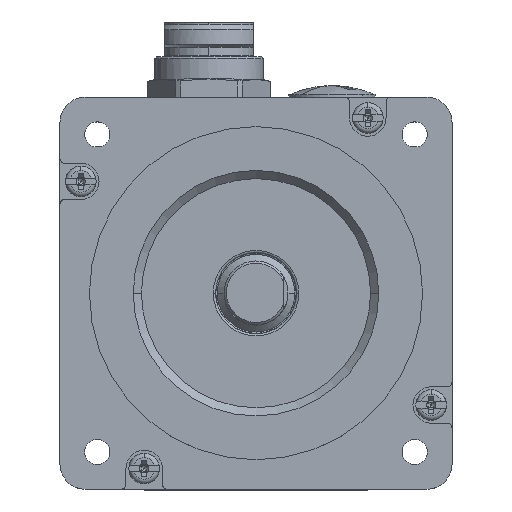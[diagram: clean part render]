
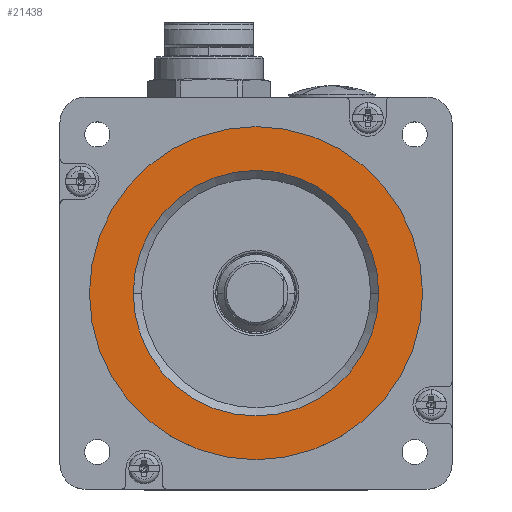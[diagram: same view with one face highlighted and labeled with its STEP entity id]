
A CAD part, top view. The second image highlights one B-rep face of the part: STEP entity #21438.
In plain terms, the highlighted planar face has unit normal (0, 0, 1).
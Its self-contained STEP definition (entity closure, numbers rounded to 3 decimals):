
#1458 = FACE_OUTER_BOUND ( 'NONE', #41997, .T. ) ;
#1884 = ORIENTED_EDGE ( 'NONE', *, *, #65854, .T. ) ;
#3645 = ORIENTED_EDGE ( 'NONE', *, *, #15280, .T. ) ;
#7233 = PLANE ( 'NONE',  #80050 ) ;
#7243 = CARTESIAN_POINT ( 'NONE',  ( 0., 0., 0. ) ) ;
#11279 = CARTESIAN_POINT ( 'NONE',  ( 26.9, 0., 0. ) ) ;
#13400 = FACE_BOUND ( 'NONE', #54401, .T. ) ;
#15280 = EDGE_CURVE ( 'NONE', #40346, #39296, #17538, .T. ) ;
#15513 = DIRECTION ( 'NONE',  ( 1., 0., 0. ) ) ;
#17538 = CIRCLE ( 'NONE', #62983, 26.9 ) ;
#21438 = ADVANCED_FACE ( 'NONE', ( #13400, #1458 ), #7233, .T. ) ;
#22477 = VERTEX_POINT ( 'NONE', #73126 ) ;
#25265 = CARTESIAN_POINT ( 'NONE',  ( -26.9, 0., 0. ) ) ;
#27712 = CIRCLE ( 'NONE', #34239, 36.5 ) ;
#31220 = CARTESIAN_POINT ( 'NONE',  ( 0., 0., 0. ) ) ;
#31630 = CARTESIAN_POINT ( 'NONE',  ( -37.45, -37.45, 0. ) ) ;
#34177 = CARTESIAN_POINT ( 'NONE',  ( 0., 0., 0. ) ) ;
#34239 = AXIS2_PLACEMENT_3D ( 'NONE', #7243, #75573, #80493 ) ;
#34720 = CIRCLE ( 'NONE', #63396, 26.9 ) ;
#37017 = VERTEX_POINT ( 'NONE', #46969 ) ;
#38056 = CARTESIAN_POINT ( 'NONE',  ( 0., 0., 0. ) ) ;
#39296 = VERTEX_POINT ( 'NONE', #25265 ) ;
#40346 = VERTEX_POINT ( 'NONE', #11279 ) ;
#41997 = EDGE_LOOP ( 'NONE', ( #1884, #80485 ) ) ;
#42659 = DIRECTION ( 'NONE',  ( 0., 0., -1. ) ) ;
#43061 = DIRECTION ( 'NONE',  ( 1., 0., 0. ) ) ;
#46969 = CARTESIAN_POINT ( 'NONE',  ( -36.5, 0., 0. ) ) ;
#54401 = EDGE_LOOP ( 'NONE', ( #3645, #58793 ) ) ;
#55570 = DIRECTION ( 'NONE',  ( 0., 0., 1. ) ) ;
#55744 = AXIS2_PLACEMENT_3D ( 'NONE', #38056, #55570, #62875 ) ;
#58793 = ORIENTED_EDGE ( 'NONE', *, *, #66945, .T. ) ;
#62875 = DIRECTION ( 'NONE',  ( 1., 0., 0. ) ) ;
#62983 = AXIS2_PLACEMENT_3D ( 'NONE', #31220, #42659, #43061 ) ;
#63396 = AXIS2_PLACEMENT_3D ( 'NONE', #34177, #77290, #15513 ) ;
#65854 = EDGE_CURVE ( 'NONE', #22477, #37017, #66115, .T. ) ;
#66115 = CIRCLE ( 'NONE', #55744, 36.5 ) ;
#66945 = EDGE_CURVE ( 'NONE', #39296, #40346, #34720, .T. ) ;
#73126 = CARTESIAN_POINT ( 'NONE',  ( 36.5, 0., 0. ) ) ;
#75573 = DIRECTION ( 'NONE',  ( 0., 0., 1. ) ) ;
#75961 = DIRECTION ( 'NONE',  ( 0., 0., 1. ) ) ;
#77215 = EDGE_CURVE ( 'NONE', #37017, #22477, #27712, .T. ) ;
#77290 = DIRECTION ( 'NONE',  ( 0., 0., -1. ) ) ;
#80050 = AXIS2_PLACEMENT_3D ( 'NONE', #31630, #75961, #80482 ) ;
#80482 = DIRECTION ( 'NONE',  ( 1., 0., 0. ) ) ;
#80485 = ORIENTED_EDGE ( 'NONE', *, *, #77215, .T. ) ;
#80493 = DIRECTION ( 'NONE',  ( 1., 0., 0. ) ) ;
